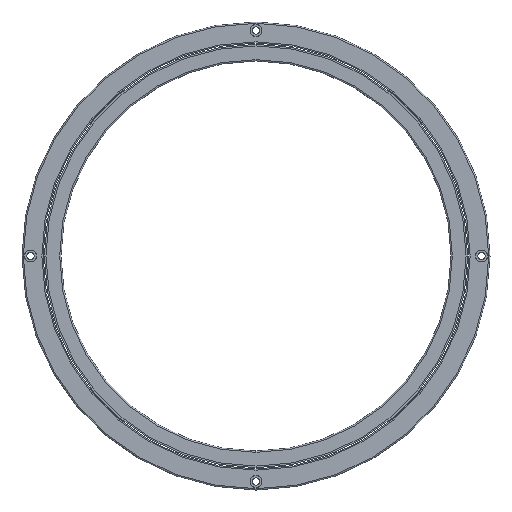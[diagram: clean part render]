
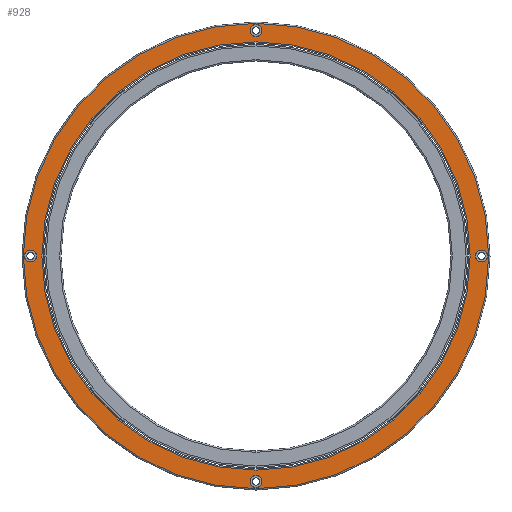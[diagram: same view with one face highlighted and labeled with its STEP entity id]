
A CAD part, front view. The second image highlights one B-rep face of the part: STEP entity #928.
In plain terms, the highlighted planar face has unit normal (0, -1, 0).
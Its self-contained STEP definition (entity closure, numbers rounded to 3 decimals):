
#43=CARTESIAN_POINT('',(0.,0.,0.));
#44=DIRECTION('',(0.,-1.,0.));
#45=DIRECTION('',(-1.,0.,0.));
#46=AXIS2_PLACEMENT_3D('',#43,#44,#45);
#48=CARTESIAN_POINT('',(0.,0.,0.));
#49=DIRECTION('',(0.,1.,0.));
#50=DIRECTION('',(-1.,0.,0.));
#51=AXIS2_PLACEMENT_3D('',#48,#49,#50);
#53=CARTESIAN_POINT('',(-86.75,0.,0.));
#54=DIRECTION('',(0.,1.,0.));
#55=DIRECTION('',(1.,0.,0.));
#56=AXIS2_PLACEMENT_3D('',#53,#54,#55);
#58=CARTESIAN_POINT('',(-86.75,0.,0.));
#59=DIRECTION('',(0.,1.,0.));
#60=DIRECTION('',(-1.,0.,0.));
#61=AXIS2_PLACEMENT_3D('',#58,#59,#60);
#63=CARTESIAN_POINT('',(0.,0.,86.75));
#64=DIRECTION('',(0.,1.,0.));
#65=DIRECTION('',(0.,0.,-1.));
#66=AXIS2_PLACEMENT_3D('',#63,#64,#65);
#68=CARTESIAN_POINT('',(0.,0.,86.75));
#69=DIRECTION('',(0.,1.,0.));
#70=DIRECTION('',(0.,0.,1.));
#71=AXIS2_PLACEMENT_3D('',#68,#69,#70);
#73=CARTESIAN_POINT('',(86.75,0.,0.));
#74=DIRECTION('',(0.,1.,0.));
#75=DIRECTION('',(-1.,0.,0.));
#76=AXIS2_PLACEMENT_3D('',#73,#74,#75);
#78=CARTESIAN_POINT('',(86.75,0.,0.));
#79=DIRECTION('',(0.,1.,0.));
#80=DIRECTION('',(1.,0.,0.));
#81=AXIS2_PLACEMENT_3D('',#78,#79,#80);
#83=CARTESIAN_POINT('',(0.,0.,-86.75));
#84=DIRECTION('',(0.,1.,0.));
#85=DIRECTION('',(0.,0.,1.));
#86=AXIS2_PLACEMENT_3D('',#83,#84,#85);
#88=CARTESIAN_POINT('',(0.,0.,-86.75));
#89=DIRECTION('',(0.,1.,0.));
#90=DIRECTION('',(0.,0.,-1.));
#91=AXIS2_PLACEMENT_3D('',#88,#89,#90);
#93=CARTESIAN_POINT('',(0.,0.,0.));
#94=DIRECTION('',(0.,1.,0.));
#95=DIRECTION('',(-1.,0.,0.));
#96=AXIS2_PLACEMENT_3D('',#93,#94,#95);
#98=CARTESIAN_POINT('',(0.,0.,0.));
#99=DIRECTION('',(0.,1.,0.));
#100=DIRECTION('',(1.,0.,0.));
#101=AXIS2_PLACEMENT_3D('',#98,#99,#100);
#751=CARTESIAN_POINT('',(-84.45,0.,0.));
#752=VERTEX_POINT('',#751);
#753=CARTESIAN_POINT('',(-89.05,0.,0.));
#754=VERTEX_POINT('',#753);
#763=CARTESIAN_POINT('',(0.,0.,84.45));
#764=VERTEX_POINT('',#763);
#765=CARTESIAN_POINT('',(0.,0.,89.05));
#766=VERTEX_POINT('',#765);
#775=CARTESIAN_POINT('',(84.45,0.,0.));
#776=VERTEX_POINT('',#775);
#777=CARTESIAN_POINT('',(89.05,0.,0.));
#778=VERTEX_POINT('',#777);
#787=CARTESIAN_POINT('',(0.,0.,-84.45));
#788=VERTEX_POINT('',#787);
#789=CARTESIAN_POINT('',(0.,0.,-89.05));
#790=VERTEX_POINT('',#789);
#808=CARTESIAN_POINT('',(-82.35,0.,0.));
#810=VERTEX_POINT('',#808);
#812=CARTESIAN_POINT('',(82.35,0.,0.));
#814=VERTEX_POINT('',#812);
#827=CARTESIAN_POINT('',(-89.5,0.,0.));
#828=CARTESIAN_POINT('',(89.5,0.,0.));
#829=VERTEX_POINT('',#827);
#830=VERTEX_POINT('',#828);
#889=CARTESIAN_POINT('',(0.,0.,0.));
#890=DIRECTION('',(0.,1.,0.));
#891=DIRECTION('',(1.,0.,0.));
#892=AXIS2_PLACEMENT_3D('',#889,#890,#891);
#893=PLANE('',#892);
#895=ORIENTED_EDGE('',*,*,#894,.T.);
#897=ORIENTED_EDGE('',*,*,#896,.T.);
#898=EDGE_LOOP('',(#895,#897));
#899=FACE_OUTER_BOUND('',#898,.F.);
#900=ORIENTED_EDGE('',*,*,#868,.F.);
#901=ORIENTED_EDGE('',*,*,#884,.F.);
#902=EDGE_LOOP('',(#900,#901));
#903=FACE_BOUND('',#902,.F.);
#905=ORIENTED_EDGE('',*,*,#904,.F.);
#907=ORIENTED_EDGE('',*,*,#906,.F.);
#908=EDGE_LOOP('',(#905,#907));
#909=FACE_BOUND('',#908,.F.);
#911=ORIENTED_EDGE('',*,*,#910,.F.);
#913=ORIENTED_EDGE('',*,*,#912,.F.);
#914=EDGE_LOOP('',(#911,#913));
#915=FACE_BOUND('',#914,.F.);
#917=ORIENTED_EDGE('',*,*,#916,.F.);
#919=ORIENTED_EDGE('',*,*,#918,.F.);
#920=EDGE_LOOP('',(#917,#919));
#921=FACE_BOUND('',#920,.F.);
#923=ORIENTED_EDGE('',*,*,#922,.T.);
#925=ORIENTED_EDGE('',*,*,#924,.F.);
#926=EDGE_LOOP('',(#923,#925));
#927=FACE_BOUND('',#926,.F.);
#47=CIRCLE('',#46,82.35);
#52=CIRCLE('',#51,82.35);
#57=CIRCLE('',#56,2.3);
#62=CIRCLE('',#61,2.3);
#67=CIRCLE('',#66,2.3);
#72=CIRCLE('',#71,2.3);
#77=CIRCLE('',#76,2.3);
#82=CIRCLE('',#81,2.3);
#87=CIRCLE('',#86,2.3);
#92=CIRCLE('',#91,2.3);
#97=CIRCLE('',#96,89.5);
#102=CIRCLE('',#101,89.5);
#868=EDGE_CURVE('',#752,#754,#57,.T.);
#884=EDGE_CURVE('',#754,#752,#62,.T.);
#894=EDGE_CURVE('',#829,#830,#97,.T.);
#896=EDGE_CURVE('',#830,#829,#102,.T.);
#904=EDGE_CURVE('',#764,#766,#67,.T.);
#906=EDGE_CURVE('',#766,#764,#72,.T.);
#910=EDGE_CURVE('',#776,#778,#77,.T.);
#912=EDGE_CURVE('',#778,#776,#82,.T.);
#916=EDGE_CURVE('',#788,#790,#87,.T.);
#918=EDGE_CURVE('',#790,#788,#92,.T.);
#922=EDGE_CURVE('',#810,#814,#47,.T.);
#924=EDGE_CURVE('',#810,#814,#52,.T.);
#928=ADVANCED_FACE('',(#899,#903,#909,#915,#921,#927),#893,.F.);
